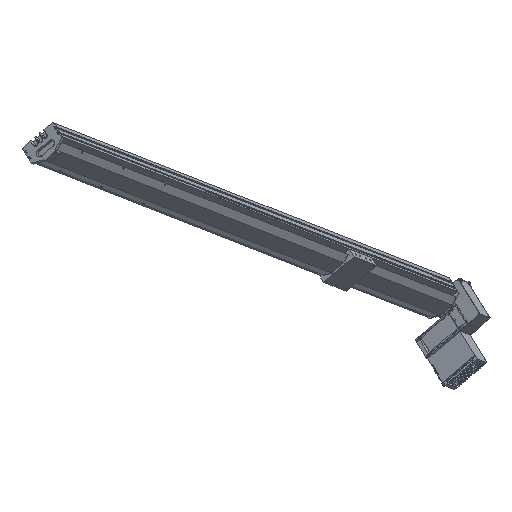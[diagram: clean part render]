
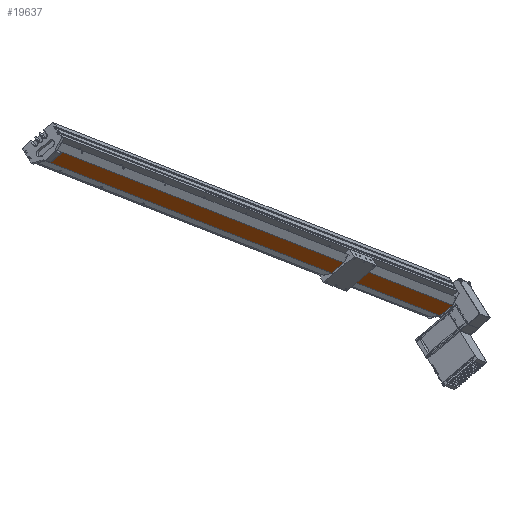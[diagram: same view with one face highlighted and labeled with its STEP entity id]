
A CAD part, top view. The second image highlights one B-rep face of the part: STEP entity #19637.
In plain terms, the highlighted planar face has unit normal (0.464, -0.763, 0.45) as drawn and (0, 1, 0) by its records, which use the part's own axes.
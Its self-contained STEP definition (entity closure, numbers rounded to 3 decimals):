
#16136 = CARTESIAN_POINT ( 'NONE',  ( 20., 61.75, 1900. ) ) ;
#16137 = LINE ( 'NONE', #16136, #16167 ) ;
#16167 = VECTOR ( 'NONE', #16313, 1000. ) ;
#16234 = CARTESIAN_POINT ( 'NONE',  ( 20., 61.75, 5.114 ) ) ;
#16313 = DIRECTION ( 'NONE',  ( 0., 0., -1. ) ) ;
#16325 = CARTESIAN_POINT ( 'NONE',  ( 20., 61.75, 0. ) ) ;
#17326 = EDGE_CURVE ( 'NONE', #17360, #17649, #16137, .T. ) ;
#17360 = VERTEX_POINT ( 'NONE', #16234 ) ;
#17649 = VERTEX_POINT ( 'NONE', #16325 ) ;
#18429 = LINE ( 'NONE', #18503, #18502 ) ;
#18501 = DIRECTION ( 'NONE',  ( 0., 0., -1. ) ) ;
#18502 = VECTOR ( 'NONE', #18501, 1000. ) ;
#18503 = CARTESIAN_POINT ( 'NONE',  ( -20., 61.75, 1900. ) ) ;
#18823 = CARTESIAN_POINT ( 'NONE',  ( -20., 61.75, 0. ) ) ;
#18824 = CARTESIAN_POINT ( 'NONE',  ( -20., 61.75, 1900. ) ) ;
#18922 = CARTESIAN_POINT ( 'NONE',  ( 20., 61.75, 1900. ) ) ;
#18923 = DIRECTION ( 'NONE',  ( 0., 0., -1. ) ) ;
#18924 = DIRECTION ( 'NONE',  ( 0., -1., 0. ) ) ;
#18961 = DIRECTION ( 'NONE',  ( -1., 0., 0. ) ) ;
#18963 = VECTOR ( 'NONE', #18961, 1000. ) ;
#18967 = CARTESIAN_POINT ( 'NONE',  ( 20., 61.75, 1900. ) ) ;
#18969 = CARTESIAN_POINT ( 'NONE',  ( 20., 61.75, 0. ) ) ;
#18970 = LINE ( 'NONE', #18969, #18963 ) ;
#19072 = DIRECTION ( 'NONE',  ( 0., 0., -1. ) ) ;
#19074 = VECTOR ( 'NONE', #19072, 1000. ) ;
#19075 = CARTESIAN_POINT ( 'NONE',  ( 20., 61.75, 1900. ) ) ;
#19076 = LINE ( 'NONE', #19075, #19074 ) ;
#19215 = AXIS2_PLACEMENT_3D ( 'NONE', #18922, #18924, #18923 ) ;
#19305 = DIRECTION ( 'NONE',  ( -1., 0., 0. ) ) ;
#19307 = VECTOR ( 'NONE', #19305, 1000. ) ;
#19317 = PLANE ( 'NONE',  #19215 ) ;
#19362 = CARTESIAN_POINT ( 'NONE',  ( 20., 61.75, 1900. ) ) ;
#19364 = LINE ( 'NONE', #19362, #19307 ) ;
#19391 = FACE_OUTER_BOUND ( 'NONE', #19548, .T. ) ;
#19431 = ORIENTED_EDGE ( 'NONE', *, *, #19432, .F. ) ;
#19432 = EDGE_CURVE ( 'NONE', #19630, #19629, #18429, .T. ) ;
#19548 = EDGE_LOOP ( 'NONE', ( #19807, #19431, #19804, #19640, #19626 ) ) ;
#19626 = ORIENTED_EDGE ( 'NONE', *, *, #17326, .T. ) ;
#19629 = VERTEX_POINT ( 'NONE', #18823 ) ;
#19630 = VERTEX_POINT ( 'NONE', #18824 ) ;
#19637 = ADVANCED_FACE ( 'NONE', ( #19391 ), #19317, .F. ) ;
#19640 = ORIENTED_EDGE ( 'NONE', *, *, #19783, .T. ) ;
#19694 = EDGE_CURVE ( 'NONE', #19775, #19630, #19364, .T. ) ;
#19766 = EDGE_CURVE ( 'NONE', #17649, #19629, #18970, .T. ) ;
#19775 = VERTEX_POINT ( 'NONE', #18967 ) ;
#19783 = EDGE_CURVE ( 'NONE', #19775, #17360, #19076, .T. ) ;
#19804 = ORIENTED_EDGE ( 'NONE', *, *, #19694, .F. ) ;
#19807 = ORIENTED_EDGE ( 'NONE', *, *, #19766, .T. ) ;
